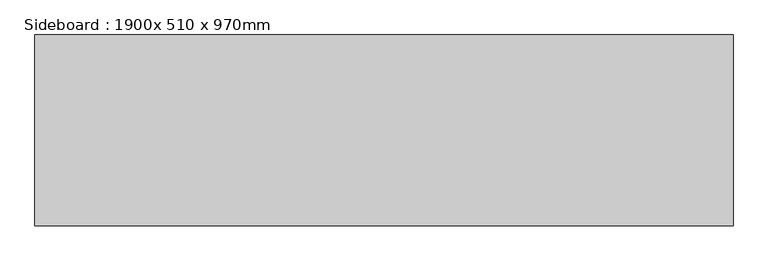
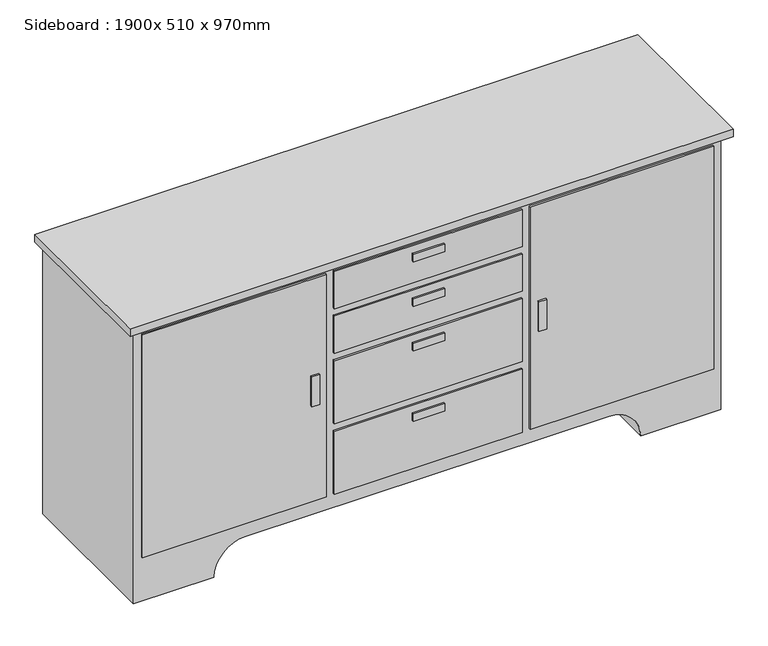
"""IFC4 building model written with IfcOpenShell, lengths in millimetres: furniture geometry, Sideboard : 1900x 510 x 970mm."""

from ifc_helpers import new_model, si_unit, point, frame, frame_2d, origin, place, context, project, spatial, polyline, circle_curve, trimmed, segment, composite_curve, outline, extrude, source, transform, mapped, element, save


def sideboard_1900x_510_x_970mm_7a39ddca(model_context):
    return source(origin(), model_context, "Body", "SweptSolid", [
        extrude(outline(composite_curve([segment(polyline([(0.3974948, 655.4067402), (940.1401786, 655.4067402), (940.1401786, -1244.5932598), (0.3401786, -1244.5932598), (0.3401786, -984.7676781)]), True, "CONTINUOUS"), segment(trimmed(circle_curve(frame_2d((0.3401786, -881.2410879)), 103.5265902), [point((0.3401786, -984.7676781))], [point((103.8667688, -881.2410879))], True, "CARTESIAN"), True, "CONTINUOUS"), segment(polyline([(103.8667688, -881.2410879), (103.8667688, 292.4734638)]), True, "CONTINUOUS"), segment(trimmed(circle_curve(frame_2d((0.3974948, 292.4734638)), 103.469274), [point((103.8667688, 292.4734638))], [point((0.3974948, 395.9427378))], True, "CARTESIAN"), True, "CONTINUOUS"), segment(polyline([(0.3974948, 395.9427378), (0.3974948, 655.4067402)]), True, "CONTINUOUS")], self_intersect=False)), frame((0.0, -617.1629541, 0.0), z_axis=(0.0, 1.0, 0.0), x_axis=(0.0, 0.0, 1.0)), (0.0, 0.0, 1.0), 508.0),
        extrude(outline(polyline([(-649.3599265, -629.8629541), (-674.7599265, -629.8629541), (-674.7599265, -623.5129541), (-649.3599265, -623.5129541), (-649.3599265, -629.8629541)])), frame((0.0, 0.0, 482.838125), z_axis=(0.0, 0.0, 1.0), x_axis=(1.0, 0.0, 0.0)), (0.0, 0.0, 1.0), 101.6),
        extrude(outline(polyline([(-244.5230145, -629.8629541), (-346.0702491, -629.8629541), (-346.0702491, -623.5129541), (-244.5230145, -623.5129541), (-244.5230145, -629.8629541)])), frame((0.0, 0.0, 863.9401786), z_axis=(0.0, 0.0, 1.0), x_axis=(1.0, 0.0, 0.0)), (0.0, 0.0, 1.0), 25.4),
        extrude(outline(polyline([(-244.5230145, -629.8629541), (-346.0702491, -629.8629541), (-346.0702491, -623.5129541), (-244.5230145, -623.5129541), (-244.5230145, -629.8629541)])), frame((0.0, 0.0, 711.4721429), z_axis=(0.0, 0.0, 1.0), x_axis=(1.0, 0.0, 0.0)), (0.0, 0.0, 1.0), 25.4),
        extrude(outline(polyline([(-244.5230145, -629.8629541), (-346.0702491, -629.8629541), (-346.0702491, -623.5129541), (-244.5230145, -623.5129541), (-244.5230145, -629.8629541)])), frame((0.0, 0.0, 559.038125), z_axis=(0.0, 0.0, 1.0), x_axis=(1.0, 0.0, 0.0)), (0.0, 0.0, 1.0), 25.4),
        extrude(outline(polyline([(-244.5230145, -629.8629541), (-346.0702491, -629.8629541), (-346.0702491, -623.5129541), (-244.5230145, -623.5129541), (-244.5230145, -629.8629541)])), frame((0.0, 0.0, 317.6020536), z_axis=(0.0, 0.0, 1.0), x_axis=(1.0, 0.0, 0.0)), (0.0, 0.0, 1.0), 25.4),
        extrude(outline(polyline([(85.5734068, -629.8629541), (60.1734068, -629.8629541), (60.1734068, -623.5129541), (85.5734068, -623.5129541), (85.5734068, -629.8629541)])), frame((0.0, 0.0, 482.838125), z_axis=(0.0, 0.0, 1.0), x_axis=(1.0, 0.0, 0.0)), (0.0, 0.0, 1.0), 101.6),
        extrude(outline(polyline([(-623.9599265, -623.5129541), (-1219.1932598, -623.5129541), (-1219.1932598, -617.1629541), (-623.9599265, -617.1629541), (-623.9599265, -623.5129541)])), frame((0.0, 0.0, 152.4), z_axis=(0.0, 0.0, 1.0), x_axis=(1.0, 0.0, 0.0)), (0.0, 0.0, 1.0), 762.3401786),
        extrude(outline(polyline([(630.0067402, -623.5129541), (34.7734068, -623.5129541), (34.7734068, -617.1629541), (630.0067402, -617.1629541), (630.0067402, -623.5129541)])), frame((0.0, 0.0, 152.4), z_axis=(0.0, 0.0, 1.0), x_axis=(1.0, 0.0, 0.0)), (0.0, 0.0, 1.0), 762.3401786),
        extrude(outline(polyline([(9.3734068, -623.5129541), (-598.5599265, -623.5129541), (-598.5599265, -617.1629541), (9.3734068, -617.1629541), (9.3734068, -623.5129541)])), frame((0.0, 0.0, 787.6721429), z_axis=(0.0, 0.0, 1.0), x_axis=(1.0, 0.0, 0.0)), (0.0, 0.0, 1.0), 127.0680357),
        extrude(outline(polyline([(9.3734068, -623.5129541), (-598.5599265, -623.5129541), (-598.5599265, -617.1629541), (9.3734068, -617.1629541), (9.3734068, -623.5129541)])), frame((0.0, 0.0, 635.2041071), z_axis=(0.0, 0.0, 1.0), x_axis=(1.0, 0.0, 0.0)), (0.0, 0.0, 1.0), 127.0680357),
        extrude(outline(polyline([(9.3734068, -623.5129541), (-598.5599265, -623.5129541), (-598.5599265, -617.1629541), (9.3734068, -617.1629541), (9.3734068, -623.5129541)])), frame((0.0, 0.0, 393.8020536), z_axis=(0.0, 0.0, 1.0), x_axis=(1.0, 0.0, 0.0)), (0.0, 0.0, 1.0), 216.0020536),
        extrude(outline(polyline([(9.3734068, -623.5129541), (-598.5599265, -623.5129541), (-598.5599265, -617.1629541), (9.3734068, -617.1629541), (9.3734068, -623.5129541)])), frame((0.0, 0.0, 152.4), z_axis=(0.0, 0.0, 1.0), x_axis=(1.0, 0.0, 0.0)), (0.0, 0.0, 1.0), 216.0020536),
        extrude(outline(polyline([(680.8067402, -642.5629541), (-1269.9932598, -642.5629541), (-1269.9932598, -109.1629541), (680.8067402, -109.1629541), (680.8067402, -642.5629541)])), frame((0.0, 0.0, 940.1401786), z_axis=(0.0, 0.0, 1.0), x_axis=(1.0, 0.0, 0.0)), (0.0, 0.0, 1.0), 25.4),
    ])


if __name__ == "__main__":
    model = new_model("IFC4")
    model_context = context("Model", 3, world=origin())
    ifc_project = project(units=[si_unit("LENGTHUNIT", "METRE", prefix="MILLI")], contexts=[model_context])
    site = spatial("IfcSite", under=ifc_project)
    building = spatial("IfcBuilding", under=site)
    placement = place(None, origin())
    sideboard_1900x_510_x_970mm_shape = sideboard_1900x_510_x_970mm_7a39ddca(model_context)
    element("IfcFurniture", 1, ObjectType="Sideboard : 1900x 510 x 970mm", at=placement, inside=building, context=model_context, shape_type="MappedRepresentation", body=[
        mapped(sideboard_1900x_510_x_970mm_shape, transform((0.0, 0.0, 0.0), x_axis=(1.0, 0.0, 0.0), y_axis=(0.0, 1.0, 0.0), z_axis=(0.0, 0.0, 1.0))),
    ])
    save(model, "model.ifc")
